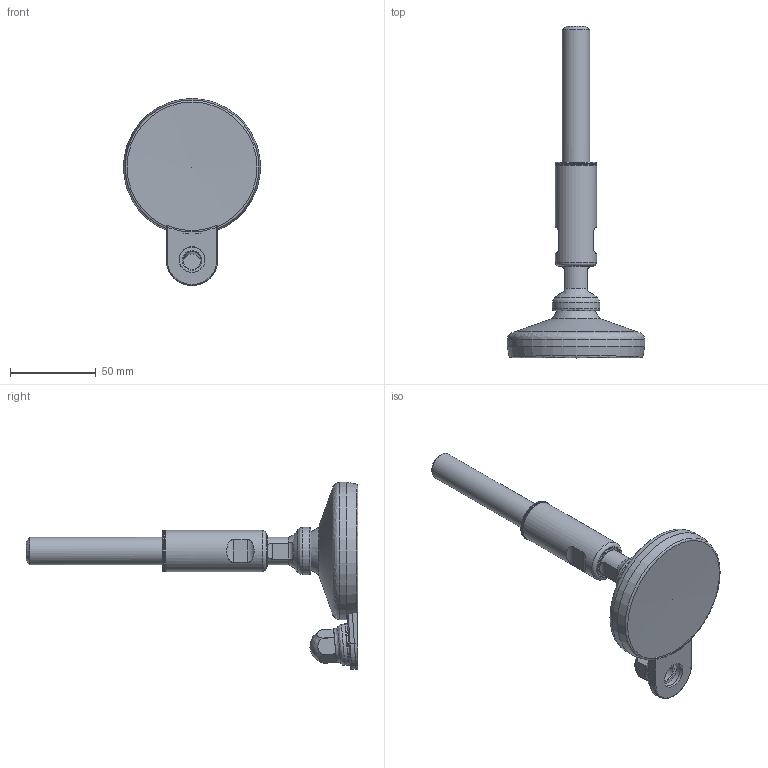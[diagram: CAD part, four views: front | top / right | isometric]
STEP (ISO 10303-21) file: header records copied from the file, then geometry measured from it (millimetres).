
FILE_DESCRIPTION(('STEP AP203'),'2;1');
FILE_NAME('27140F-3A.stp','2016-11-25T15:44:38',(''),(''),'2008.1.107','THINKDESIGN','');
FILE_SCHEMA(('CONFIG_CONTROL_DESIGN'));
Length unit declared in the file: millimetre
Bounding box: 80 x 193.5 x 109.13 mm (x, y, z)
Volume: 150738.9 mm3; surface area: 52512.6 mm2
Topology: 10 solids, 10 shells, 146 faces, 401 edges, 287 vertices
Faces by surface type: plane 55, cylinder 47, bspline 44
Full cylindrical faces by diameter (mm): 10.3 x1, 10.5 x1, 14 x1, 15 x2, 16 x3, 16.006 x1, 16.4 x1, 18 x4, 19.006 x2, 19.5 x1, 22 x4, 22.006 x2, 22.4 x2, 24 x2, 24.4 x1, 24.5 x1, 27.5 x1, 80 x1
Entity records: 6537 total; most frequent: CARTESIAN_POINT 2691, DIRECTION 816, ORIENTED_EDGE 726, EDGE_CURVE 363, AXIS2_PLACEMENT_3D 355, VERTEX_POINT 257, CIRCLE 249, EDGE_LOOP 160
